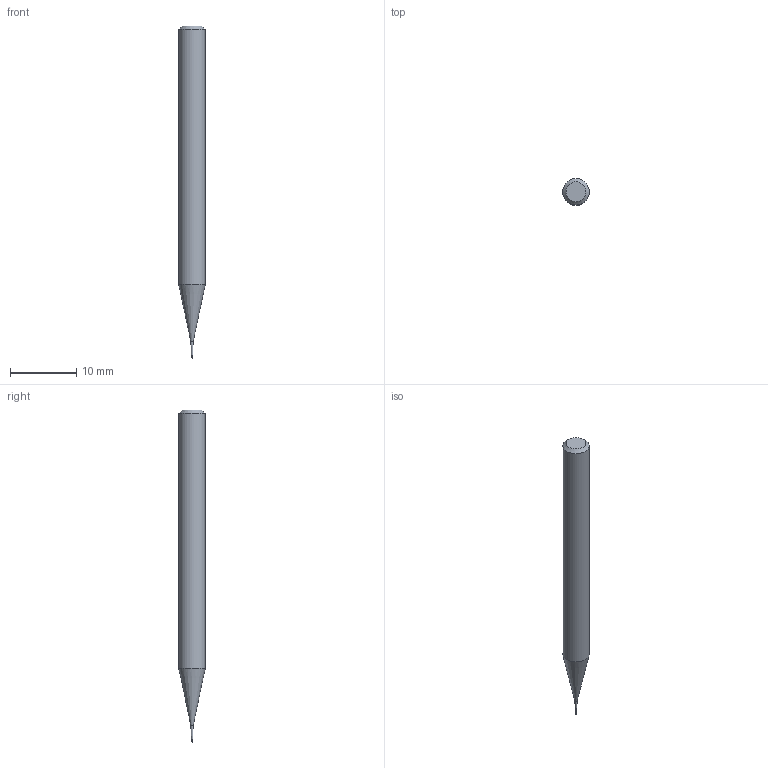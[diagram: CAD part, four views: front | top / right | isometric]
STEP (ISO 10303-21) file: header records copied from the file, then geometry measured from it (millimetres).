
FILE_DESCRIPTION((''),'2;1');
FILE_NAME('C:\Users\nsx150\AppData\Local\Temp\Mastercam 2021\SNAKH10GOD\TEMP.step','2021-10-21T13:30:39',(''),(''),'STEP Write','Mastercam 2021 ... CNC Software, Inc.','');
FILE_SCHEMA(('AUTOMOTIVE_DESIGN'));
Length unit declared in the file: millimetre
Products named in the file (1): None
Bounding box: 4 x 4 x 50 mm (x, y, z)
Volume: 527.1 mm3; surface area: 559.7 mm2
Topology: 2 solids, 2 shells, 10 faces, 16 edges, 9 vertices
Faces by surface type: plane 3, cylinder 3, cone 3, sphere 1
Full cylindrical faces by diameter (mm): 0.195 x1, 0.2 x1, 4 x1
Entity records: 232 total; most frequent: DIRECTION 40, CARTESIAN_POINT 28, AXIS2_PLACEMENT_3D 20, ORIENTED_EDGE 16, EDGE_LOOP 16, STYLED_ITEM 13, ADVANCED_FACE 10, FACE_BOUND 9
